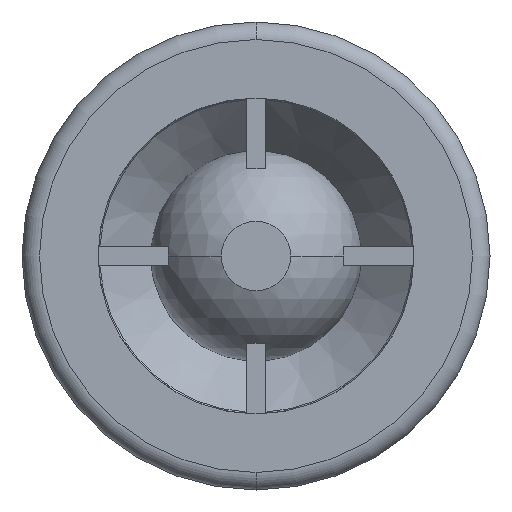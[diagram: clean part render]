
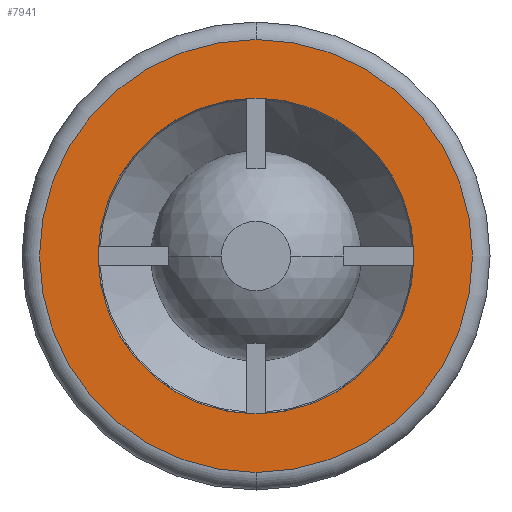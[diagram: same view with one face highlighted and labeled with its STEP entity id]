
A CAD part, front view. The second image highlights one B-rep face of the part: STEP entity #7941.
In plain terms, the highlighted planar face has unit normal (0, -1, 0).
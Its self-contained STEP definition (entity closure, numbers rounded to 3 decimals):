
#26 = ORIENTED_EDGE ( 'NONE', *, *, #4057, .F. ) ;
#28 = ORIENTED_EDGE ( 'NONE', *, *, #8061, .F. ) ;
#1351 = CARTESIAN_POINT ( 'NONE',  ( 0., 0., -18.5 ) ) ;
#1352 = DIRECTION ( 'NONE',  ( 0., 0., 1. ) ) ;
#1353 = DIRECTION ( 'NONE',  ( 0., -1., 0. ) ) ;
#1354 = CARTESIAN_POINT ( 'NONE',  ( 0., 0., 0. ) ) ;
#1355 = AXIS2_PLACEMENT_3D ( 'NONE', #1354, #1353, #1352 ) ;
#1359 = CIRCLE ( 'NONE', #1355, 18.5 ) ;
#1558 = CARTESIAN_POINT ( 'NONE',  ( 0., 0., 18.5 ) ) ;
#3085 = CIRCLE ( 'NONE', #3142, 18.5 ) ;
#3126 = DIRECTION ( 'NONE',  ( 0., 0., 1. ) ) ;
#3127 = DIRECTION ( 'NONE',  ( 0., 1., 0. ) ) ;
#3128 = CARTESIAN_POINT ( 'NONE',  ( -13.5, 0., 0. ) ) ;
#3130 = AXIS2_PLACEMENT_3D ( 'NONE', #3128, #3127, #3126 ) ;
#3131 = PLANE ( 'NONE',  #3130 ) ;
#3132 = FACE_BOUND ( 'NONE', #7931, .T. ) ;
#3133 = FACE_OUTER_BOUND ( 'NONE', #7938, .T. ) ;
#3139 = DIRECTION ( 'NONE',  ( 0., 0., 1. ) ) ;
#3140 = DIRECTION ( 'NONE',  ( 0., -1., 0. ) ) ;
#3141 = CARTESIAN_POINT ( 'NONE',  ( 0., 0., 0. ) ) ;
#3142 = AXIS2_PLACEMENT_3D ( 'NONE', #3141, #3140, #3139 ) ;
#3288 = CARTESIAN_POINT ( 'NONE',  ( 0., 0., 13.5 ) ) ;
#3337 = DIRECTION ( 'NONE',  ( 0., 0., -1. ) ) ;
#3338 = DIRECTION ( 'NONE',  ( 0., -1., 0. ) ) ;
#3339 = CARTESIAN_POINT ( 'NONE',  ( 0., 0., 0. ) ) ;
#3340 = AXIS2_PLACEMENT_3D ( 'NONE', #3339, #3338, #3337 ) ;
#3341 = CIRCLE ( 'NONE', #3340, 13.5 ) ;
#3358 = CARTESIAN_POINT ( 'NONE',  ( 0., 0., -13.5 ) ) ;
#4057 = EDGE_CURVE ( 'NONE', #8053, #8023, #6175, .T. ) ;
#5377 = EDGE_CURVE ( 'NONE', #5378, #5460, #1359, .T. ) ;
#5378 = VERTEX_POINT ( 'NONE', #1351 ) ;
#5460 = VERTEX_POINT ( 'NONE', #1558 ) ;
#6171 = DIRECTION ( 'NONE',  ( 0., 0., -1. ) ) ;
#6172 = DIRECTION ( 'NONE',  ( 0., -1., 0. ) ) ;
#6173 = CARTESIAN_POINT ( 'NONE',  ( 0., 0., 0. ) ) ;
#6174 = AXIS2_PLACEMENT_3D ( 'NONE', #6173, #6172, #6171 ) ;
#6175 = CIRCLE ( 'NONE', #6174, 13.5 ) ;
#7931 = EDGE_LOOP ( 'NONE', ( #26, #28 ) ) ;
#7932 = EDGE_CURVE ( 'NONE', #5460, #5378, #3085, .T. ) ;
#7936 = ORIENTED_EDGE ( 'NONE', *, *, #7932, .T. ) ;
#7938 = EDGE_LOOP ( 'NONE', ( #7936, #7939 ) ) ;
#7939 = ORIENTED_EDGE ( 'NONE', *, *, #5377, .T. ) ;
#7941 = ADVANCED_FACE ( 'NONE', ( #3133, #3132 ), #3131, .F. ) ;
#8023 = VERTEX_POINT ( 'NONE', #3288 ) ;
#8053 = VERTEX_POINT ( 'NONE', #3358 ) ;
#8061 = EDGE_CURVE ( 'NONE', #8023, #8053, #3341, .T. ) ;
